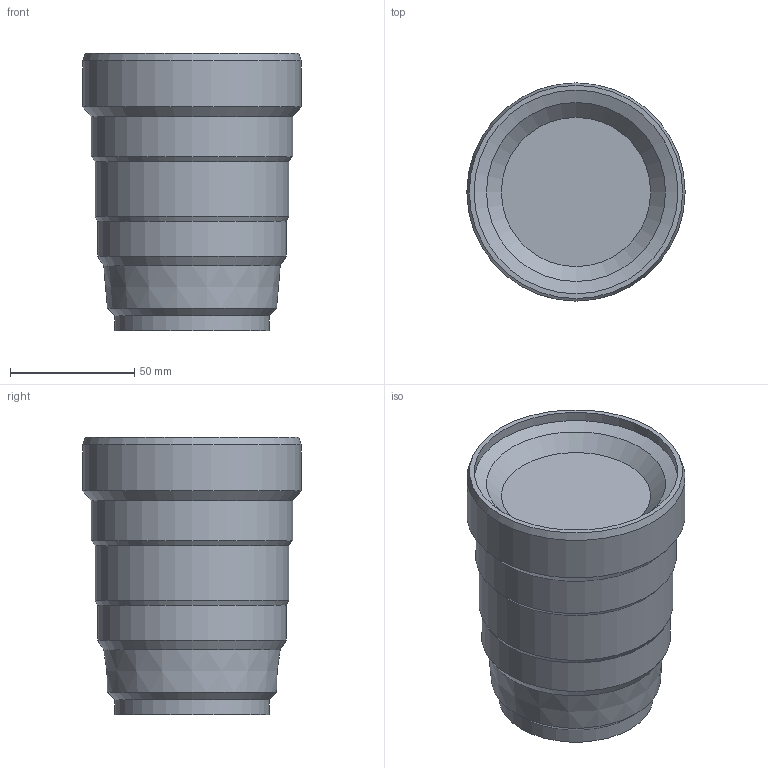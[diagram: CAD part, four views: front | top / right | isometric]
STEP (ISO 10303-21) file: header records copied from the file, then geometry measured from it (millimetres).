
FILE_DESCRIPTION(('Open CASCADE Model'),'2;1');
FILE_NAME('Open CASCADE Shape Model','2026-11-27T16:19:06',('Author'),( 'Open CASCADE'),'Open CASCADE STEP processor 7.9','Open CASCADE 7.9' ,'Unknown');
FILE_SCHEMA(('AUTOMOTIVE_DESIGN { 1 0 10303 214 1 1 1 1 }'));
Length unit declared in the file: millimetre
Products named in the file (1): Open CASCADE STEP translator 7.9 4
Bounding box: 87.8 x 87.8 x 111.5 mm (x, y, z)
Volume: 481000.2 mm3; surface area: 38617.9 mm2
Topology: 1 solids, 1 shells, 18 faces, 32 edges, 17 vertices
Faces by surface type: cone 9, cylinder 6, plane 3
Full cylindrical faces by diameter (mm): 62 x1, 76 x1, 78 x1, 81 x1, 82 x1, 87.8 x1
Entity records: 855 total; most frequent: DIRECTION 151, CARTESIAN_POINT 132, LINE 75, VECTOR 75, ORIENTED_EDGE 64, PCURVE 64, DEFINITIONAL_REPRESENTATION 64, AXIS2_PLACEMENT_3D 36
